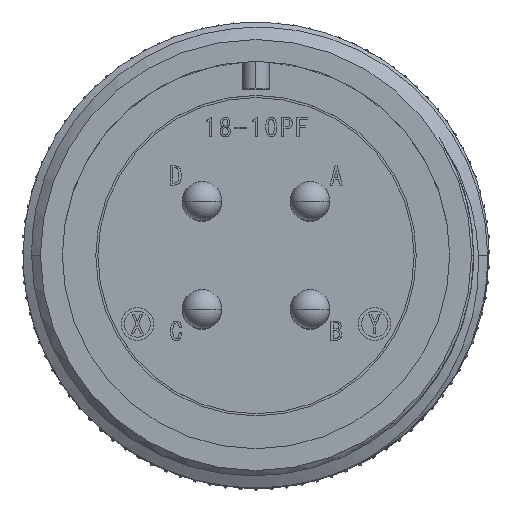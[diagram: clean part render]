
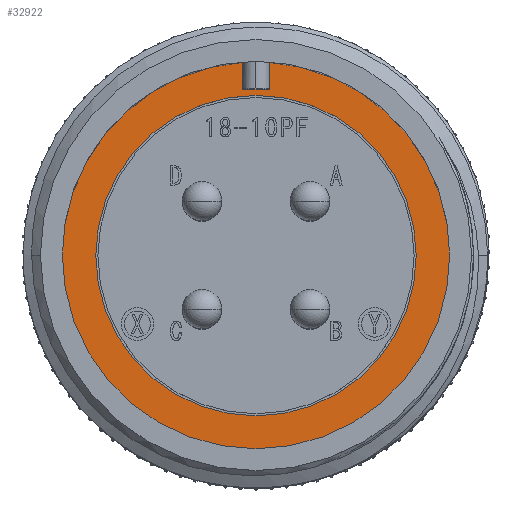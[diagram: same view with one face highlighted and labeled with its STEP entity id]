
A CAD part, top view. The second image highlights one B-rep face of the part: STEP entity #32922.
In plain terms, the highlighted planar face has unit normal (0, 0, 1).
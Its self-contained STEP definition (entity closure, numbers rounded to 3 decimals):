
#752 = CIRCLE ( 'NONE', #58680, 11.84 ) ;
#1047 = CARTESIAN_POINT ( 'NONE',  ( 0.825, 11.811, -19.18 ) ) ;
#1987 = DIRECTION ( 'NONE',  ( 0., -1., 0. ) ) ;
#2369 = EDGE_CURVE ( 'NONE', #48460, #57187, #11981, .T. ) ;
#4716 = DIRECTION ( 'NONE',  ( -1., 0., 0. ) ) ;
#7039 = DIRECTION ( 'NONE',  ( 0., 0., -1. ) ) ;
#7338 = AXIS2_PLACEMENT_3D ( 'NONE', #31698, #12899, #45753 ) ;
#8029 = PLANE ( 'NONE',  #7338 ) ;
#8996 = VECTOR ( 'NONE', #39569, 1000. ) ;
#10175 = CARTESIAN_POINT ( 'NONE',  ( 0.825, 500000., -19.18 ) ) ;
#10360 = VECTOR ( 'NONE', #29298, 1000. ) ;
#11376 = CARTESIAN_POINT ( 'NONE',  ( -0.825, 10.16, -19.18 ) ) ;
#11801 = VECTOR ( 'NONE', #1987, 1000. ) ;
#11981 = CIRCLE ( 'NONE', #32440, 11.84 ) ;
#12899 = DIRECTION ( 'NONE',  ( 0., 0., 1. ) ) ;
#15803 = CARTESIAN_POINT ( 'NONE',  ( 0., 0., -19.18 ) ) ;
#16605 = CARTESIAN_POINT ( 'NONE',  ( -0.825, 500000., -19.18 ) ) ;
#16615 = DIRECTION ( 'NONE',  ( 0., 0., -1. ) ) ;
#17142 = AXIS2_PLACEMENT_3D ( 'NONE', #53581, #25656, #58286 ) ;
#17578 = DIRECTION ( 'NONE',  ( -1., 0., 0. ) ) ;
#18182 = DIRECTION ( 'NONE',  ( 0., 0., -1. ) ) ;
#19513 = FACE_OUTER_BOUND ( 'NONE', #43170, .T. ) ;
#19669 = ORIENTED_EDGE ( 'NONE', *, *, #50825, .F. ) ;
#21093 = ORIENTED_EDGE ( 'NONE', *, *, #49214, .F. ) ;
#22141 = CARTESIAN_POINT ( 'NONE',  ( -0.825, 11.811, -19.18 ) ) ;
#23202 = LINE ( 'NONE', #11376, #8996 ) ;
#23814 = VERTEX_POINT ( 'NONE', #43054 ) ;
#24370 = CARTESIAN_POINT ( 'NONE',  ( 9.795, 0., -19.18 ) ) ;
#25187 = CARTESIAN_POINT ( 'NONE',  ( -11.84, 0., -19.18 ) ) ;
#25656 = DIRECTION ( 'NONE',  ( 0., 0., -1. ) ) ;
#27265 = EDGE_CURVE ( 'NONE', #57187, #48493, #42380, .T. ) ;
#27768 = ORIENTED_EDGE ( 'NONE', *, *, #59440, .T. ) ;
#29298 = DIRECTION ( 'NONE',  ( 0., -1., 0. ) ) ;
#29317 = ORIENTED_EDGE ( 'NONE', *, *, #27265, .F. ) ;
#29507 = ORIENTED_EDGE ( 'NONE', *, *, #35976, .T. ) ;
#31698 = CARTESIAN_POINT ( 'NONE',  ( 0., 9.795, -19.18 ) ) ;
#32440 = AXIS2_PLACEMENT_3D ( 'NONE', #15803, #16615, #17578 ) ;
#32922 = ADVANCED_FACE ( 'NONE', ( #33507, #19513 ), #8029, .T. ) ;
#33113 = DIRECTION ( 'NONE',  ( 0., 0., -1. ) ) ;
#33251 = EDGE_CURVE ( 'NONE', #50528, #44664, #23202, .T. ) ;
#33507 = FACE_BOUND ( 'NONE', #55845, .T. ) ;
#35193 = VERTEX_POINT ( 'NONE', #22141 ) ;
#35388 = CARTESIAN_POINT ( 'NONE',  ( 0., 0., -19.18 ) ) ;
#35694 = ORIENTED_EDGE ( 'NONE', *, *, #51715, .T. ) ;
#35976 = EDGE_CURVE ( 'NONE', #48460, #50528, #58830, .T. ) ;
#37534 = CARTESIAN_POINT ( 'NONE',  ( 11.84, 0., -19.18 ) ) ;
#38957 = ORIENTED_EDGE ( 'NONE', *, *, #2369, .F. ) ;
#39569 = DIRECTION ( 'NONE',  ( -1., 0., 0. ) ) ;
#40062 = DIRECTION ( 'NONE',  ( -1., 0., 0. ) ) ;
#41612 = AXIS2_PLACEMENT_3D ( 'NONE', #61065, #33113, #4716 ) ;
#42380 = CIRCLE ( 'NONE', #41612, 11.84 ) ;
#43054 = CARTESIAN_POINT ( 'NONE',  ( -9.795, 0., -19.18 ) ) ;
#43170 = EDGE_LOOP ( 'NONE', ( #38957, #29507, #47502, #19669, #21093, #29317 ) ) ;
#44664 = VERTEX_POINT ( 'NONE', #53705 ) ;
#45753 = DIRECTION ( 'NONE',  ( 1., 0., 0. ) ) ;
#46239 = CARTESIAN_POINT ( 'NONE',  ( 0., 0., -19.18 ) ) ;
#47502 = ORIENTED_EDGE ( 'NONE', *, *, #33251, .T. ) ;
#48460 = VERTEX_POINT ( 'NONE', #1047 ) ;
#48493 = VERTEX_POINT ( 'NONE', #25187 ) ;
#49214 = EDGE_CURVE ( 'NONE', #48493, #35193, #752, .T. ) ;
#49299 = LINE ( 'NONE', #16605, #11801 ) ;
#50528 = VERTEX_POINT ( 'NONE', #55394 ) ;
#50825 = EDGE_CURVE ( 'NONE', #35193, #44664, #49299, .T. ) ;
#50935 = DIRECTION ( 'NONE',  ( -1., 0., 0. ) ) ;
#51715 = EDGE_CURVE ( 'NONE', #53205, #23814, #60216, .T. ) ;
#52396 = CIRCLE ( 'NONE', #56991, 9.795 ) ;
#53205 = VERTEX_POINT ( 'NONE', #24370 ) ;
#53581 = CARTESIAN_POINT ( 'NONE',  ( 0., 0., -19.18 ) ) ;
#53705 = CARTESIAN_POINT ( 'NONE',  ( -0.825, 10.16, -19.18 ) ) ;
#55394 = CARTESIAN_POINT ( 'NONE',  ( 0.825, 10.16, -19.18 ) ) ;
#55845 = EDGE_LOOP ( 'NONE', ( #27768, #35694 ) ) ;
#56991 = AXIS2_PLACEMENT_3D ( 'NONE', #35388, #7039, #40062 ) ;
#57187 = VERTEX_POINT ( 'NONE', #37534 ) ;
#58286 = DIRECTION ( 'NONE',  ( -1., 0., 0. ) ) ;
#58680 = AXIS2_PLACEMENT_3D ( 'NONE', #46239, #18182, #50935 ) ;
#58830 = LINE ( 'NONE', #10175, #10360 ) ;
#59440 = EDGE_CURVE ( 'NONE', #23814, #53205, #52396, .T. ) ;
#60216 = CIRCLE ( 'NONE', #17142, 9.795 ) ;
#61065 = CARTESIAN_POINT ( 'NONE',  ( 0., 0., -19.18 ) ) ;
